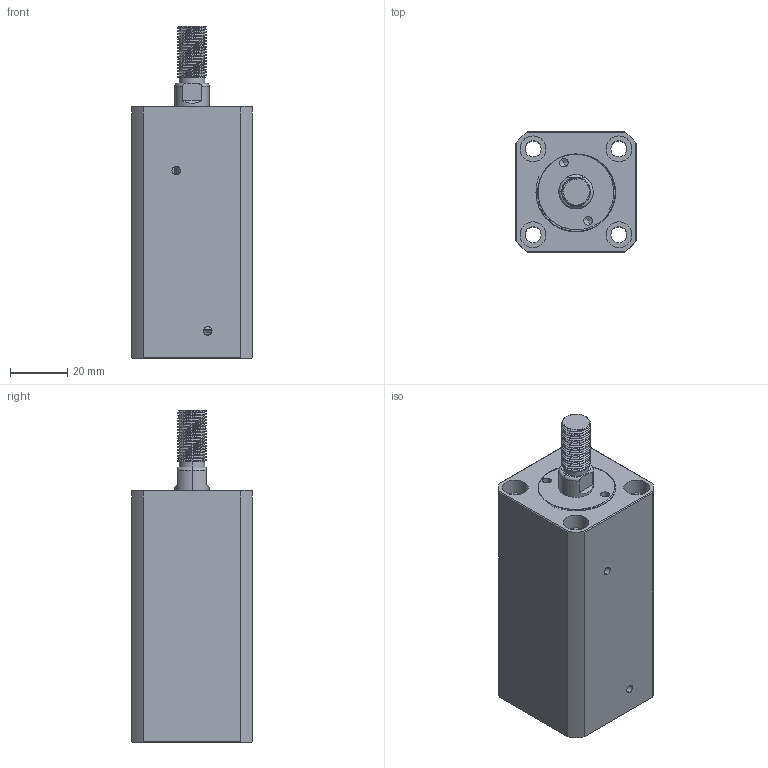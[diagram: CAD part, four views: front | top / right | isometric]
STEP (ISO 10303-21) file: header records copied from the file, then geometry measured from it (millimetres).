
FILE_DESCRIPTION (( 'STEP AP214' ), '1' );
FILE_NAME ('chtb-sdmb20x45w_asm.STEP', '2018-05-18T08:35:12', ( 'Windows' ), ( 'Microsoft' ), 'SwSTEP 2.0', 'SolidWorks 2015', '' );
FILE_SCHEMA (( 'AUTOMOTIVE_DESIGN' ));
Length unit declared in the file: millimetre
Products named in the file (4): QG_3; CHTB-SDMB20X45WHSG; CHTB-SDMB20X45NBT; chtb-sdmb20x45w_asm
Assembly tree (3 placements, depth 2):
  chtb-sdmb20x45w_asm
    CHTB-SDMB20X45NBT
    CHTB-SDMB20X45WHSG
    QG_3
Bounding box: 42 x 42 x 116 mm (x, y, z)
Volume: 133486.2 mm3; surface area: 40132.7 mm2
Topology: 3 solids, 3 shells, 243 faces, 660 edges, 439 vertices
Faces by surface type: cylinder 143, plane 47, torus 25, bspline 23, cone 5
Entity records: 14768 total; most frequent: CARTESIAN_POINT 8984, ORIENTED_EDGE 1312, DIRECTION 1058, EDGE_CURVE 656, VERTEX_POINT 439, AXIS2_PLACEMENT_3D 434, EDGE_LOOP 281, ADVANCED_FACE 243
